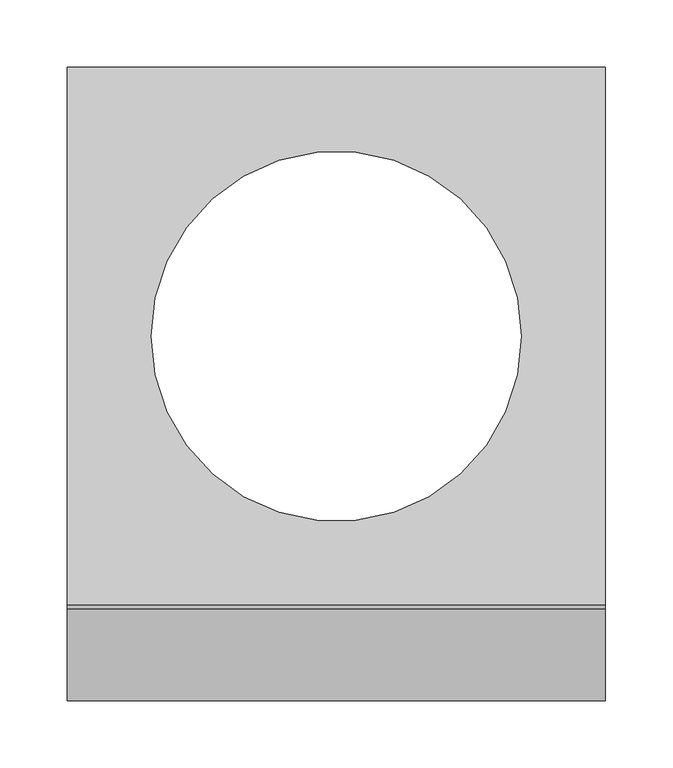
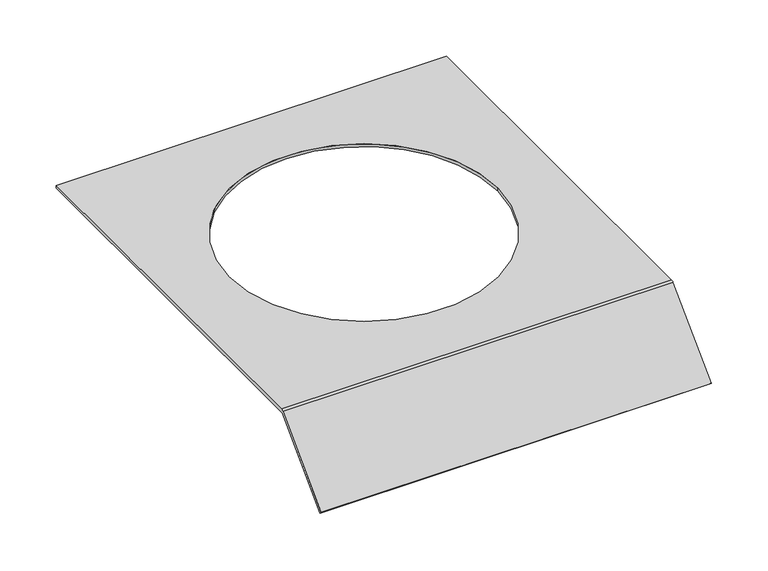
"""IFC4 building model written with IfcOpenShell, lengths in millimetres: proxy geometry, Electrical_Installation_Hager_Covers-With-Installation-Opening-R10 : Electrical_Installation_Hager_Covers-With-Installation-Opening-R10."""

from ifc_helpers import new_model, si_unit, frame, origin, place, context, project, spatial, polyline, circle_curve, source, transform, mapped, element, save
from ifc_brep_helpers import plane_surface, cylinder_surface, revolved_surface, advanced_brep


def electrical_fixtures_e075263a(model_context):
    return source(origin(), model_context, "Body", "AdvancedBrep", [
        advanced_brep(
        [(0.0, 200.0, 40.5), (0.0, 200.0, 37.5), (0.0, -199.8229541, 37.5), (0.0, -200.8322972, 37.0819164), (0.0, -268.712807, -30.7985934), (0.0, -270.8341273, -28.6772731), (0.0, -202.8206472, 39.336207), (0.0, -200.0110025, 40.5), (400.0, 200.0, 40.5), (400.0, -200.0110025, 40.5), (400.0, -202.8206472, 39.336207), (400.0, -270.8341273, -28.6772731), (400.0, -268.712807, -30.7985934), (400.0, -200.8322972, 37.0819164), (400.0, -199.8229541, 37.5), (400.0, 200.0, 37.5), (62.5, 0.0, 37.5), (337.5, 0.0, 37.5), (337.5, 0.0, 40.5), (62.5, 0.0, 40.5)],
        [
            (0, 1),
            (1, 2),
            (2, 3, circle_curve(frame((0.0, -199.8229541, 36.0725733), z_axis=(1.0, 0.0, 0.0), x_axis=(0.0, 1.0, 0.0)), 1.4274267)),
            (3, 4),
            (4, 5),
            (5, 6),
            (6, 7, circle_curve(frame((0.0, -200.0110025, 36.5265623), z_axis=(-1.0, 0.0, 0.0), x_axis=(0.0, 1.0, 0.0)), 3.9734377)),
            (7, 0),
            (8, 9),
            (9, 10, circle_curve(frame((400.0, -200.0110025, 36.5265623), z_axis=(1.0, 0.0, 0.0), x_axis=(0.0, 1.0, 0.0)), 3.9734377)),
            (10, 11),
            (11, 12),
            (12, 13),
            (13, 14, circle_curve(frame((400.0, -199.8229541, 36.0725733), z_axis=(-1.0, 0.0, 0.0), x_axis=(0.0, 1.0, 0.0)), 1.4274267)),
            (14, 15),
            (15, 8),
            (0, 8),
            (15, 1),
            (14, 2),
            (16, 17, circle_curve(frame((200.0, 0.0, 37.5), z_axis=(0.0, 0.0, 1.0), x_axis=(1.0, 0.0, 0.0)), 137.5)),
            (17, 16, circle_curve(frame((200.0, 0.0, 37.5), z_axis=(0.0, 0.0, 1.0), x_axis=(1.0, 0.0, 0.0)), 137.5)),
            (13, 3),
            (12, 4),
            (11, 5),
            (10, 6),
            (9, 7),
            (18, 19, circle_curve(frame((200.0, 0.0, 40.5), z_axis=(0.0, 0.0, -1.0), x_axis=(1.0, 0.0, 0.0)), 137.5)),
            (19, 18, circle_curve(frame((200.0, 0.0, 40.5), z_axis=(0.0, 0.0, -1.0), x_axis=(1.0, 0.0, 0.0)), 137.5)),
            (16, 19),
            (18, 17),
        ],
        [
            plane_surface(frame((0.0, 0.3269864, 15.0), z_axis=(-1.0, 0.0, 0.0), x_axis=(0.0, 0.0, 1.0))),
            plane_surface(frame((400.0, 0.3269864, 15.0), z_axis=(1.0, 0.0, 0.0), x_axis=(0.0, 0.0, 1.0))),
            plane_surface(frame((0.0, 200.0, 40.5), z_axis=(0.0, 1.0, 0.0), x_axis=(1.0, 0.0, 0.0))),
            plane_surface(frame((0.0, 200.0, 37.5), z_axis=(0.0, 0.0, -1.0), x_axis=(1.0, 0.0, 0.0))),
            revolved_surface(polyline([(400.0, -198.3955274, 36.0725733), (0.0, -198.3955274, 36.0725733)]), (0.0, -199.8229541, 36.0725733), (1.0, 0.0, 0.0)),
            plane_surface(frame((0.0, -200.8322972, 37.0819164), z_axis=(0.0, 0.7071067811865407, -0.7071067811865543), x_axis=(1.0, 0.0, 0.0))),
            plane_surface(frame((0.0, -268.712807, -30.7985934), z_axis=(0.0, -0.7071067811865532, -0.7071067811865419), x_axis=(1.0, 0.0, 0.0))),
            plane_surface(frame((0.0, -270.8341273, -28.6772731), z_axis=(0.0, -0.7071067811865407, 0.7071067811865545), x_axis=(1.0, 0.0, 0.0))),
            cylinder_surface(frame((0.0, -200.0110025, 36.5265623), z_axis=(-1.0, 0.0, 0.0), x_axis=(0.0, 1.0, 0.0)), 3.9734377),
            plane_surface(frame((0.0, -200.0110025, 40.5), z_axis=(0.0, 0.0, 1.0), x_axis=(1.0, 0.0, 0.0))),
            revolved_surface(polyline([(337.5, 0.0, 40.5), (337.5, 0.0, 37.5)]), (200.0, 0.0, 0.0), (0.0, 0.0, 1.0)),
        ],
        [
            (0, [[1, 2, 3, 4, 5, 6, 7, 8]]),
            (1, [[9, 10, 11, 12, 13, 14, 15, 16]]),
            (2, [[-1, 17, -16, 18]]),
            (3, [[-2, -18, -15, 19], [20, 21]]),
            (4, [[-3, -19, -14, 22]]),
            (5, [[-4, -22, -13, 23]]),
            (6, [[-5, -23, -12, 24]]),
            (7, [[-6, -24, -11, 25]]),
            (8, [[-7, -25, -10, 26]]),
            (9, [[-8, -26, -9, -17], [27, 28]]),
            (10, [[29, -27, 30, -20]]),
            (10, [[-29, -21, -30, -28]]),
        ],
    ),
    ])


if __name__ == "__main__":
    model = new_model("IFC4")
    model_context = context("Model", 3, world=origin())
    ifc_project = project(units=[si_unit("LENGTHUNIT", "METRE", prefix="MILLI")], contexts=[model_context])
    site = spatial("IfcSite", under=ifc_project)
    building = spatial("IfcBuilding", under=site)
    placement = place(None, origin())
    electrical_fixtures_shape = electrical_fixtures_e075263a(model_context)
    element("IfcBuildingElementProxy", 1, Name="Electrical_Installation_Hager_Covers-With-Installation-Opening-R10 : Electrical_Installation_Hager_Covers-With-Installation-Opening-R10", ObjectType="Electrical_Installation_Hager_Covers-With-Installation-Opening-R10 : Electrical_Installation_Hager_Covers-With-Installation-Opening-R10", at=placement, inside=building, context=model_context, shape_type="MappedRepresentation", body=[
        mapped(electrical_fixtures_shape, transform((0.0, 0.0, 0.0), x_axis=(1.0, 0.0, 0.0), y_axis=(0.0, 1.0, 0.0), z_axis=(0.0, 0.0, 1.0))),
    ])
    save(model, "model.ifc")
